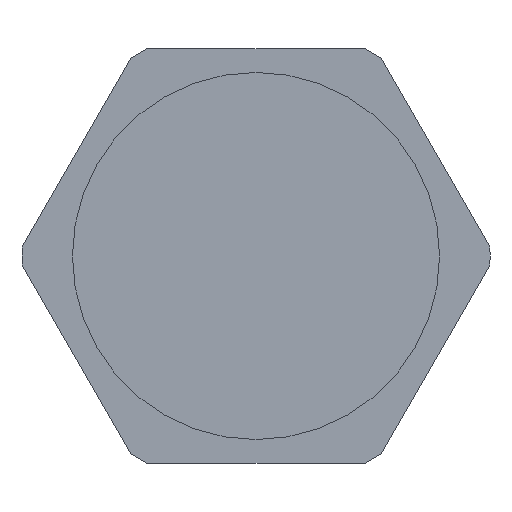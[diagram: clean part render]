
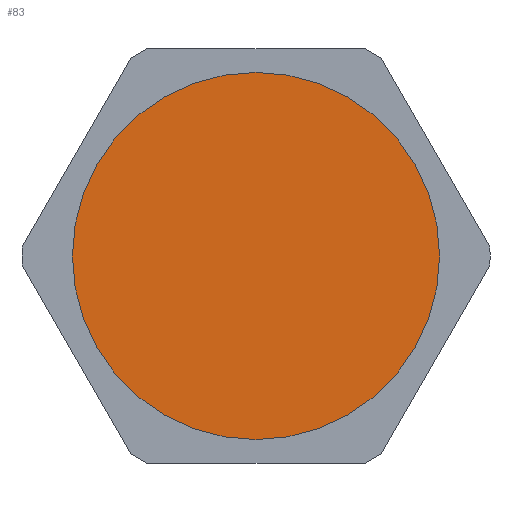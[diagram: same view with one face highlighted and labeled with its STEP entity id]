
A CAD part, front view. The second image highlights one B-rep face of the part: STEP entity #83.
In plain terms, the highlighted planar face has unit normal (0, -1, 0).
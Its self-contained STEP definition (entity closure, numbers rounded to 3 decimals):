
#9 = CARTESIAN_POINT ( 'NONE',  ( 0., -4.5, 0. ) ) ;
#11 = AXIS2_PLACEMENT_3D ( 'NONE', #9, #613, #94 ) ;
#63 = EDGE_CURVE ( 'NONE', #706, #615, #545, .T. ) ;
#83 = ADVANCED_FACE ( 'NONE', ( #88 ), #793, .T. ) ;
#88 = FACE_OUTER_BOUND ( 'NONE', #938, .T. ) ;
#94 = DIRECTION ( 'NONE',  ( 0., 0., -1. ) ) ;
#98 = DIRECTION ( 'NONE',  ( 0., 0., -1. ) ) ;
#302 = AXIS2_PLACEMENT_3D ( 'NONE', #349, #618, #98 ) ;
#348 = AXIS2_PLACEMENT_3D ( 'NONE', #500, #1125, #590 ) ;
#349 = CARTESIAN_POINT ( 'NONE',  ( 0., -4.5, 0. ) ) ;
#441 = ORIENTED_EDGE ( 'NONE', *, *, #63, .T. ) ;
#500 = CARTESIAN_POINT ( 'NONE',  ( 0., -4.5, 0. ) ) ;
#545 = CIRCLE ( 'NONE', #11, 10.2 ) ;
#590 = DIRECTION ( 'NONE',  ( 0., 0., -1. ) ) ;
#613 = DIRECTION ( 'NONE',  ( 0., -1., 0. ) ) ;
#615 = VERTEX_POINT ( 'NONE', #763 ) ;
#618 = DIRECTION ( 'NONE',  ( 0., -1., 0. ) ) ;
#706 = VERTEX_POINT ( 'NONE', #901 ) ;
#763 = CARTESIAN_POINT ( 'NONE',  ( 0., -4.5, 10.2 ) ) ;
#793 = PLANE ( 'NONE',  #302 ) ;
#867 = CIRCLE ( 'NONE', #348, 10.2 ) ;
#894 = EDGE_CURVE ( 'NONE', #615, #706, #867, .T. ) ;
#901 = CARTESIAN_POINT ( 'NONE',  ( 0., -4.5, -10.2 ) ) ;
#938 = EDGE_LOOP ( 'NONE', ( #1092, #441 ) ) ;
#1092 = ORIENTED_EDGE ( 'NONE', *, *, #894, .T. ) ;
#1125 = DIRECTION ( 'NONE',  ( 0., -1., 0. ) ) ;
